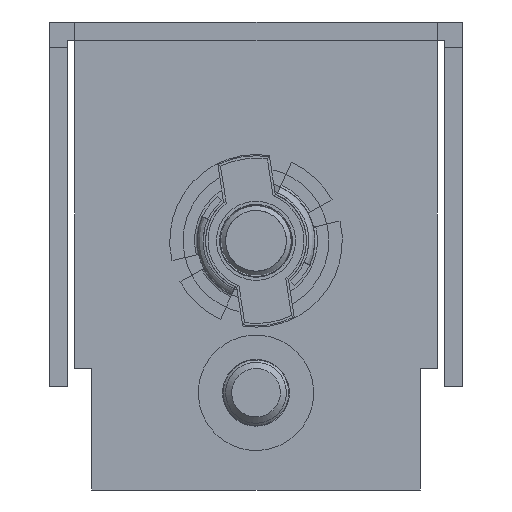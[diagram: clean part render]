
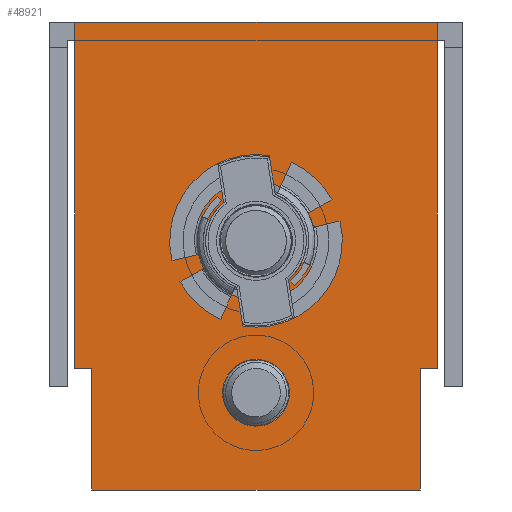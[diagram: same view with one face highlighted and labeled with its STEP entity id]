
A CAD part, left-side view. The second image highlights one B-rep face of the part: STEP entity #48921.
In plain terms, the highlighted planar face has unit normal (-1, 0, 0).
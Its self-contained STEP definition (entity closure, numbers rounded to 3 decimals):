
#4154 = VERTEX_POINT('',#4155);
#4155 = CARTESIAN_POINT('',(-349.,-14.9,1.5));
#4234 = VERTEX_POINT('',#4235);
#4235 = CARTESIAN_POINT('',(-349.,14.9,1.5));
#4241 = EDGE_CURVE('',#4234,#4154,#4242,.T.);
#4242 = LINE('',#4243,#4244);
#4243 = CARTESIAN_POINT('',(-349.,0.,1.5));
#4244 = VECTOR('',#4245,1.);
#4245 = DIRECTION('',(0.,-1.,0.));
#48809 = VERTEX_POINT('',#48810);
#48810 = CARTESIAN_POINT('',(-349.,14.9,-0.6));
#48816 = EDGE_CURVE('',#48809,#4234,#48817,.T.);
#48817 = LINE('',#48818,#48819);
#48818 = CARTESIAN_POINT('',(-349.,14.9,0.));
#48819 = VECTOR('',#48820,1.);
#48820 = DIRECTION('',(0.,0.,1.));
#48834 = VERTEX_POINT('',#48835);
#48835 = CARTESIAN_POINT('',(-349.,-14.9,-0.6));
#48849 = EDGE_CURVE('',#48834,#4154,#48850,.T.);
#48850 = LINE('',#48851,#48852);
#48851 = CARTESIAN_POINT('',(-349.,-14.9,-0.6));
#48852 = VECTOR('',#48853,1.);
#48853 = DIRECTION('',(0.,0.,1.));
#48872 = VERTEX_POINT('',#48873);
#48873 = CARTESIAN_POINT('',(-349.,14.9,-27.));
#48879 = EDGE_CURVE('',#48809,#48872,#48880,.T.);
#48880 = LINE('',#48881,#48882);
#48881 = CARTESIAN_POINT('',(-349.,14.9,-37.));
#48882 = VECTOR('',#48883,1.);
#48883 = DIRECTION('',(0.,0.,-1.));
#48894 = EDGE_CURVE('',#48895,#48834,#48897,.T.);
#48895 = VERTEX_POINT('',#48896);
#48896 = CARTESIAN_POINT('',(-349.,-14.9,-27.));
#48897 = LINE('',#48898,#48899);
#48898 = CARTESIAN_POINT('',(-349.,-14.9,0.));
#48899 = VECTOR('',#48900,1.);
#48900 = DIRECTION('',(0.,0.,1.));
#48921 = ADVANCED_FACE('',(#48922,#48933,#48944),#48989,.F.);
#48922 = FACE_BOUND('',#48923,.T.);
#48923 = EDGE_LOOP('',(#48924));
#48924 = ORIENTED_EDGE('',*,*,#48925,.T.);
#48925 = EDGE_CURVE('',#48926,#48926,#48928,.T.);
#48926 = VERTEX_POINT('',#48927);
#48927 = CARTESIAN_POINT('',(-349.,0.,-19.75));
#48928 = CIRCLE('',#48929,3.25);
#48929 = AXIS2_PLACEMENT_3D('',#48930,#48931,#48932);
#48930 = CARTESIAN_POINT('',(-349.,0.,-16.5));
#48931 = DIRECTION('',(1.,0.,0.));
#48932 = DIRECTION('',(0.,0.,-1.));
#48933 = FACE_BOUND('',#48934,.T.);
#48934 = EDGE_LOOP('',(#48935));
#48935 = ORIENTED_EDGE('',*,*,#48936,.T.);
#48936 = EDGE_CURVE('',#48937,#48937,#48939,.T.);
#48937 = VERTEX_POINT('',#48938);
#48938 = CARTESIAN_POINT('',(-349.,0.,-31.75));
#48939 = CIRCLE('',#48940,2.75);
#48940 = AXIS2_PLACEMENT_3D('',#48941,#48942,#48943);
#48941 = CARTESIAN_POINT('',(-349.,0.,-29.));
#48942 = DIRECTION('',(1.,0.,0.));
#48943 = DIRECTION('',(0.,0.,-1.));
#48944 = FACE_BOUND('',#48945,.T.);
#48945 = EDGE_LOOP('',(#48946,#48956,#48962,#48963,#48964,#48965,#48966,
    #48967,#48975,#48983));
#48946 = ORIENTED_EDGE('',*,*,#48947,.T.);
#48947 = EDGE_CURVE('',#48948,#48950,#48952,.T.);
#48948 = VERTEX_POINT('',#48949);
#48949 = CARTESIAN_POINT('',(-349.,-13.5,-37.));
#48950 = VERTEX_POINT('',#48951);
#48951 = CARTESIAN_POINT('',(-349.,-13.5,-27.));
#48952 = LINE('',#48953,#48954);
#48953 = CARTESIAN_POINT('',(-349.,-13.5,-37.));
#48954 = VECTOR('',#48955,1.);
#48955 = DIRECTION('',(0.,0.,1.));
#48956 = ORIENTED_EDGE('',*,*,#48957,.T.);
#48957 = EDGE_CURVE('',#48950,#48895,#48958,.T.);
#48958 = LINE('',#48959,#48960);
#48959 = CARTESIAN_POINT('',(-349.,-14.9,-27.));
#48960 = VECTOR('',#48961,1.);
#48961 = DIRECTION('',(-0.,-1.,-0.));
#48962 = ORIENTED_EDGE('',*,*,#48894,.T.);
#48963 = ORIENTED_EDGE('',*,*,#48849,.T.);
#48964 = ORIENTED_EDGE('',*,*,#4241,.F.);
#48965 = ORIENTED_EDGE('',*,*,#48816,.F.);
#48966 = ORIENTED_EDGE('',*,*,#48879,.T.);
#48967 = ORIENTED_EDGE('',*,*,#48968,.T.);
#48968 = EDGE_CURVE('',#48872,#48969,#48971,.T.);
#48969 = VERTEX_POINT('',#48970);
#48970 = CARTESIAN_POINT('',(-349.,13.5,-27.));
#48971 = LINE('',#48972,#48973);
#48972 = CARTESIAN_POINT('',(-349.,14.9,-27.));
#48973 = VECTOR('',#48974,1.);
#48974 = DIRECTION('',(0.,-1.,0.));
#48975 = ORIENTED_EDGE('',*,*,#48976,.T.);
#48976 = EDGE_CURVE('',#48969,#48977,#48979,.T.);
#48977 = VERTEX_POINT('',#48978);
#48978 = CARTESIAN_POINT('',(-349.,13.5,-37.));
#48979 = LINE('',#48980,#48981);
#48980 = CARTESIAN_POINT('',(-349.,13.5,-37.));
#48981 = VECTOR('',#48982,1.);
#48982 = DIRECTION('',(0.,0.,-1.));
#48983 = ORIENTED_EDGE('',*,*,#48984,.T.);
#48984 = EDGE_CURVE('',#48977,#48948,#48985,.T.);
#48985 = LINE('',#48986,#48987);
#48986 = CARTESIAN_POINT('',(-349.,-14.9,-37.));
#48987 = VECTOR('',#48988,1.);
#48988 = DIRECTION('',(0.,-1.,0.));
#48989 = PLANE('',#48990);
#48990 = AXIS2_PLACEMENT_3D('',#48991,#48992,#48993);
#48991 = CARTESIAN_POINT('',(-349.,0.,
    0.));
#48992 = DIRECTION('',(1.,0.,0.));
#48993 = DIRECTION('',(0.,1.,0.));
